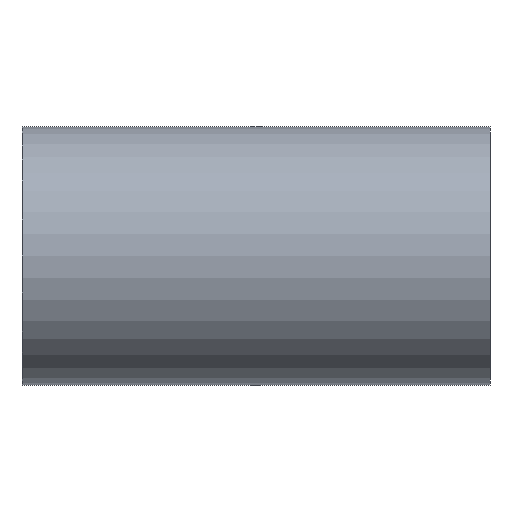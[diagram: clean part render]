
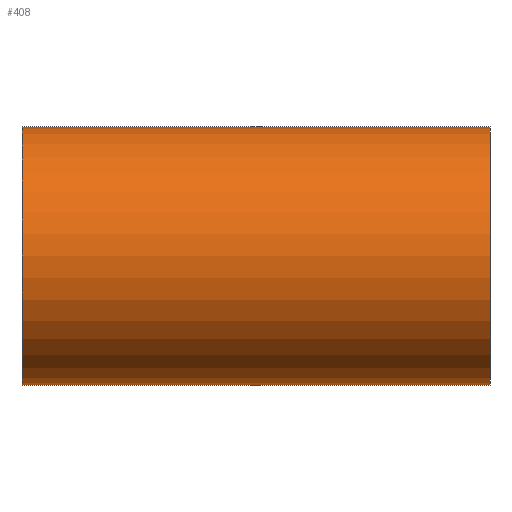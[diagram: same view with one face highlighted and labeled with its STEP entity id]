
A CAD part, front view. The second image highlights one B-rep face of the part: STEP entity #408.
In plain terms, the highlighted cylindrical face has radius 65 mm (diameter 130 mm), a full revolution.
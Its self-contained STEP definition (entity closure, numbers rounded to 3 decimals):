
#16=FACE_BOUND('',#102,.T.);
#17=FACE_BOUND('',#103,.T.);
#26=ELLIPSE('',#433,91.924,65.);
#27=ELLIPSE('',#434,91.924,65.);
#29=CYLINDRICAL_SURFACE('',#431,65.);
#75=FACE_OUTER_BOUND('',#101,.T.);
#101=EDGE_LOOP('',(#343));
#102=EDGE_LOOP('',(#344,#345));
#103=EDGE_LOOP('',(#346));
#124=CIRCLE('',#432,65.);
#125=CIRCLE('',#435,65.);
#195=VERTEX_POINT('',#30662);
#196=VERTEX_POINT('',#30664);
#197=VERTEX_POINT('',#30665);
#198=VERTEX_POINT('',#30668);
#253=EDGE_CURVE('',#195,#195,#124,.T.);
#254=EDGE_CURVE('',#196,#197,#26,.T.);
#255=EDGE_CURVE('',#197,#196,#27,.T.);
#256=EDGE_CURVE('',#198,#198,#125,.T.);
#343=ORIENTED_EDGE('',*,*,#253,.F.);
#344=ORIENTED_EDGE('',*,*,#254,.T.);
#345=ORIENTED_EDGE('',*,*,#255,.T.);
#346=ORIENTED_EDGE('',*,*,#256,.F.);
#408=ADVANCED_FACE('',(#75,#16,#17),#29,.T.);
#431=AXIS2_PLACEMENT_3D('',#30661,#483,#484);
#432=AXIS2_PLACEMENT_3D('',#30663,#485,#486);
#433=AXIS2_PLACEMENT_3D('',#30666,#487,#488);
#434=AXIS2_PLACEMENT_3D('',#30667,#489,#490);
#435=AXIS2_PLACEMENT_3D('',#30669,#491,#492);
#483=DIRECTION('center_axis',(1.,0.,0.));
#484=DIRECTION('ref_axis',(0.,-1.,0.));
#485=DIRECTION('center_axis',(-1.,0.,0.));
#486=DIRECTION('ref_axis',(0.,-1.,0.));
#487=DIRECTION('center_axis',(-0.707,-0.707,0.));
#488=DIRECTION('ref_axis',(0.707,-0.707,0.));
#489=DIRECTION('center_axis',(0.707,-0.707,0.));
#490=DIRECTION('ref_axis',(0.707,0.707,0.));
#491=DIRECTION('center_axis',(1.,0.,0.));
#492=DIRECTION('ref_axis',(0.,-1.,0.));
#30661=CARTESIAN_POINT('Origin',(0.,0.,0.));
#30662=CARTESIAN_POINT('',(-117.5,65.,0.));
#30663=CARTESIAN_POINT('Origin',(-117.5,0.,0.));
#30664=CARTESIAN_POINT('',(0.,0.,65.));
#30665=CARTESIAN_POINT('',(0.,0.,-65.));
#30666=CARTESIAN_POINT('Origin',(0.,0.,0.));
#30667=CARTESIAN_POINT('Origin',(0.,0.,0.));
#30668=CARTESIAN_POINT('',(117.5,65.,0.));
#30669=CARTESIAN_POINT('Origin',(117.5,0.,0.));
